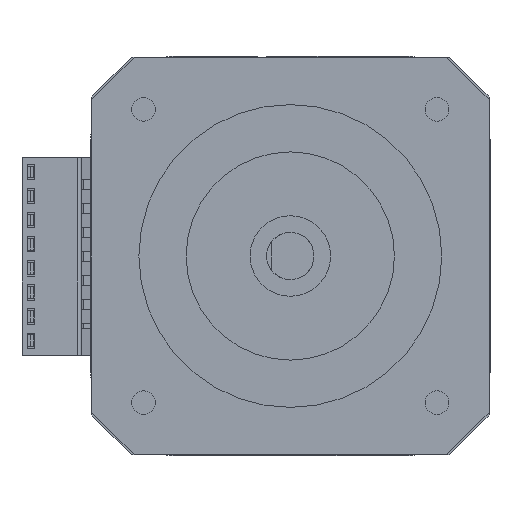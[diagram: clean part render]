
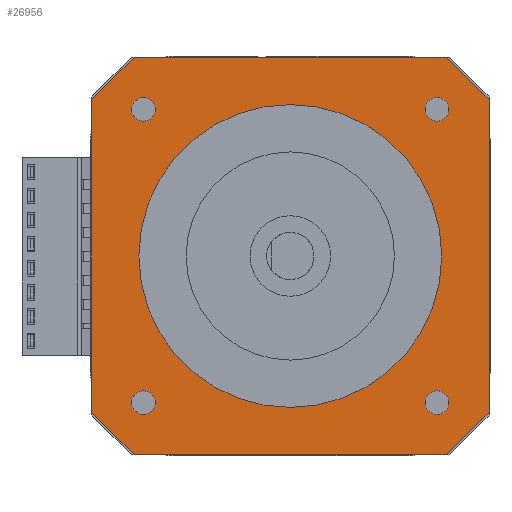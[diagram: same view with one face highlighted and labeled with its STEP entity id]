
A CAD part, front view. The second image highlights one B-rep face of the part: STEP entity #26956.
In plain terms, the highlighted planar face has unit normal (0, -1, 0).
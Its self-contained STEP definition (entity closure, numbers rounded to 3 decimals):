
#1471=DIRECTION('',(0.707,0.,-0.707));
#1472=VECTOR('',#1471,6.364);
#1473=CARTESIAN_POINT('',(37.5,24.,0.));
#1474=LINE('',#1473,#1472);
#1475=DIRECTION('',(0.,0.,-1.));
#1476=VECTOR('',#1475,33.);
#1477=CARTESIAN_POINT('',(42.,24.,-4.5));
#1478=LINE('',#1477,#1476);
#1479=DIRECTION('',(-0.707,0.,-0.707));
#1480=VECTOR('',#1479,6.364);
#1481=CARTESIAN_POINT('',(42.,24.,-37.5));
#1482=LINE('',#1481,#1480);
#1483=DIRECTION('',(-0.707,0.,0.707));
#1484=VECTOR('',#1483,6.364);
#1485=CARTESIAN_POINT('',(4.5,24.,-42.));
#1486=LINE('',#1485,#1484);
#1487=DIRECTION('',(0.707,0.,0.707));
#1488=VECTOR('',#1487,6.364);
#1489=CARTESIAN_POINT('',(0.,24.,-4.5));
#1490=LINE('',#1489,#1488);
#1491=CARTESIAN_POINT('',(5.5,24.,-36.5));
#1492=DIRECTION('',(0.,-1.,0.));
#1493=DIRECTION('',(-1.,0.,0.));
#1494=AXIS2_PLACEMENT_3D('',#1491,#1492,#1493);
#1496=CARTESIAN_POINT('',(5.5,24.,-36.5));
#1497=DIRECTION('',(0.,-1.,0.));
#1498=DIRECTION('',(1.,0.,0.));
#1499=AXIS2_PLACEMENT_3D('',#1496,#1497,#1498);
#1501=CARTESIAN_POINT('',(36.5,24.,-36.5));
#1502=DIRECTION('',(0.,-1.,0.));
#1503=DIRECTION('',(-1.,0.,0.));
#1504=AXIS2_PLACEMENT_3D('',#1501,#1502,#1503);
#1506=CARTESIAN_POINT('',(36.5,24.,-36.5));
#1507=DIRECTION('',(0.,-1.,0.));
#1508=DIRECTION('',(1.,0.,0.));
#1509=AXIS2_PLACEMENT_3D('',#1506,#1507,#1508);
#1511=CARTESIAN_POINT('',(5.5,24.,-5.5));
#1512=DIRECTION('',(0.,-1.,0.));
#1513=DIRECTION('',(-1.,0.,0.));
#1514=AXIS2_PLACEMENT_3D('',#1511,#1512,#1513);
#1516=CARTESIAN_POINT('',(5.5,24.,-5.5));
#1517=DIRECTION('',(0.,-1.,0.));
#1518=DIRECTION('',(1.,0.,0.));
#1519=AXIS2_PLACEMENT_3D('',#1516,#1517,#1518);
#1521=CARTESIAN_POINT('',(36.5,24.,-5.5));
#1522=DIRECTION('',(0.,-1.,0.));
#1523=DIRECTION('',(-1.,0.,0.));
#1524=AXIS2_PLACEMENT_3D('',#1521,#1522,#1523);
#1526=CARTESIAN_POINT('',(36.5,24.,-5.5));
#1527=DIRECTION('',(0.,-1.,0.));
#1528=DIRECTION('',(1.,0.,0.));
#1529=AXIS2_PLACEMENT_3D('',#1526,#1527,#1528);
#1531=CARTESIAN_POINT('',(21.,24.,-21.));
#1532=DIRECTION('',(0.,-1.,0.));
#1533=DIRECTION('',(-1.,0.,0.));
#1534=AXIS2_PLACEMENT_3D('',#1531,#1532,#1533);
#1536=CARTESIAN_POINT('',(21.,24.,-21.));
#1537=DIRECTION('',(0.,-1.,0.));
#1538=DIRECTION('',(1.,0.,0.));
#1539=AXIS2_PLACEMENT_3D('',#1536,#1537,#1538);
#1549=DIRECTION('',(-1.,0.,0.));
#1550=VECTOR('',#1549,33.);
#1551=CARTESIAN_POINT('',(37.5,24.,0.));
#1552=LINE('',#1551,#1550);
#7420=DIRECTION('',(0.,0.,-1.));
#7421=VECTOR('',#7420,33.);
#7422=CARTESIAN_POINT('',(0.,24.,-4.5));
#7423=LINE('',#7422,#7421);
#7440=DIRECTION('',(1.,0.,0.));
#7441=VECTOR('',#7440,33.);
#7442=CARTESIAN_POINT('',(4.5,24.,-42.));
#7443=LINE('',#7442,#7441);
#18446=CARTESIAN_POINT('',(42.,24.,-4.5));
#18447=CARTESIAN_POINT('',(42.,24.,-37.5));
#18448=VERTEX_POINT('',#18446);
#18449=VERTEX_POINT('',#18447);
#18456=CARTESIAN_POINT('',(37.5,24.,0.));
#18457=CARTESIAN_POINT('',(4.5,24.,0.));
#18458=VERTEX_POINT('',#18456);
#18459=VERTEX_POINT('',#18457);
#18460=CARTESIAN_POINT('',(0.,24.,-4.5));
#18461=VERTEX_POINT('',#18460);
#18462=CARTESIAN_POINT('',(0.,24.,-37.5));
#18463=VERTEX_POINT('',#18462);
#18464=CARTESIAN_POINT('',(4.5,24.,-42.));
#18465=VERTEX_POINT('',#18464);
#18466=CARTESIAN_POINT('',(37.5,24.,-42.));
#18467=VERTEX_POINT('',#18466);
#18468=CARTESIAN_POINT('',(4.25,24.,-36.5));
#18469=CARTESIAN_POINT('',(6.75,24.,-36.5));
#18470=VERTEX_POINT('',#18468);
#18471=VERTEX_POINT('',#18469);
#18472=CARTESIAN_POINT('',(35.25,24.,-36.5));
#18473=CARTESIAN_POINT('',(37.75,24.,-36.5));
#18474=VERTEX_POINT('',#18472);
#18475=VERTEX_POINT('',#18473);
#18476=CARTESIAN_POINT('',(4.25,24.,-5.5));
#18477=CARTESIAN_POINT('',(6.75,24.,-5.5));
#18478=VERTEX_POINT('',#18476);
#18479=VERTEX_POINT('',#18477);
#18480=CARTESIAN_POINT('',(35.25,24.,-5.5));
#18481=CARTESIAN_POINT('',(37.75,24.,-5.5));
#18482=VERTEX_POINT('',#18480);
#18483=VERTEX_POINT('',#18481);
#18484=CARTESIAN_POINT('',(5.,24.,-21.));
#18485=CARTESIAN_POINT('',(37.,24.,-21.));
#18486=VERTEX_POINT('',#18484);
#18487=VERTEX_POINT('',#18485);
#26905=CARTESIAN_POINT('',(21.,24.,-21.));
#26906=DIRECTION('',(0.,1.,0.));
#26907=DIRECTION('',(1.,0.,0.));
#26908=AXIS2_PLACEMENT_3D('',#26905,#26906,#26907);
#26909=PLANE('',#26908);
#26911=ORIENTED_EDGE('',*,*,#26910,.F.);
#26913=ORIENTED_EDGE('',*,*,#26912,.T.);
#26915=ORIENTED_EDGE('',*,*,#26914,.T.);
#26917=ORIENTED_EDGE('',*,*,#26916,.T.);
#26919=ORIENTED_EDGE('',*,*,#26918,.F.);
#26921=ORIENTED_EDGE('',*,*,#26920,.T.);
#26923=ORIENTED_EDGE('',*,*,#26922,.F.);
#26925=ORIENTED_EDGE('',*,*,#26924,.T.);
#26926=EDGE_LOOP('',(#26911,#26913,#26915,#26917,#26919,#26921,#26923,#26925));
#26927=FACE_OUTER_BOUND('',#26926,.F.);
#26929=ORIENTED_EDGE('',*,*,#26928,.T.);
#26931=ORIENTED_EDGE('',*,*,#26930,.T.);
#26932=EDGE_LOOP('',(#26929,#26931));
#26933=FACE_BOUND('',#26932,.F.);
#26935=ORIENTED_EDGE('',*,*,#26934,.T.);
#26937=ORIENTED_EDGE('',*,*,#26936,.T.);
#26938=EDGE_LOOP('',(#26935,#26937));
#26939=FACE_BOUND('',#26938,.F.);
#26941=ORIENTED_EDGE('',*,*,#26940,.T.);
#26943=ORIENTED_EDGE('',*,*,#26942,.T.);
#26944=EDGE_LOOP('',(#26941,#26943));
#26945=FACE_BOUND('',#26944,.F.);
#26947=ORIENTED_EDGE('',*,*,#26946,.T.);
#26949=ORIENTED_EDGE('',*,*,#26948,.T.);
#26950=EDGE_LOOP('',(#26947,#26949));
#26951=FACE_BOUND('',#26950,.F.);
#26952=ORIENTED_EDGE('',*,*,#26870,.T.);
#26953=ORIENTED_EDGE('',*,*,#26892,.T.);
#26954=EDGE_LOOP('',(#26952,#26953));
#26955=FACE_BOUND('',#26954,.F.);
#26956=ADVANCED_FACE('',(#26927,#26933,#26939,#26945,#26951,#26955),#26909,.F.);
#1495=CIRCLE('',#1494,1.25);
#1500=CIRCLE('',#1499,1.25);
#1505=CIRCLE('',#1504,1.25);
#1510=CIRCLE('',#1509,1.25);
#1515=CIRCLE('',#1514,1.25);
#1520=CIRCLE('',#1519,1.25);
#1525=CIRCLE('',#1524,1.25);
#1530=CIRCLE('',#1529,1.25);
#1535=CIRCLE('',#1534,16.);
#1540=CIRCLE('',#1539,16.);
#26870=EDGE_CURVE('',#18486,#18487,#1535,.T.);
#26892=EDGE_CURVE('',#18487,#18486,#1540,.T.);
#26910=EDGE_CURVE('',#18458,#18459,#1552,.T.);
#26912=EDGE_CURVE('',#18458,#18448,#1474,.T.);
#26914=EDGE_CURVE('',#18448,#18449,#1478,.T.);
#26916=EDGE_CURVE('',#18449,#18467,#1482,.T.);
#26918=EDGE_CURVE('',#18465,#18467,#7443,.T.);
#26920=EDGE_CURVE('',#18465,#18463,#1486,.T.);
#26922=EDGE_CURVE('',#18461,#18463,#7423,.T.);
#26924=EDGE_CURVE('',#18461,#18459,#1490,.T.);
#26928=EDGE_CURVE('',#18470,#18471,#1495,.T.);
#26930=EDGE_CURVE('',#18471,#18470,#1500,.T.);
#26934=EDGE_CURVE('',#18474,#18475,#1505,.T.);
#26936=EDGE_CURVE('',#18475,#18474,#1510,.T.);
#26940=EDGE_CURVE('',#18478,#18479,#1515,.T.);
#26942=EDGE_CURVE('',#18479,#18478,#1520,.T.);
#26946=EDGE_CURVE('',#18482,#18483,#1525,.T.);
#26948=EDGE_CURVE('',#18483,#18482,#1530,.T.);
